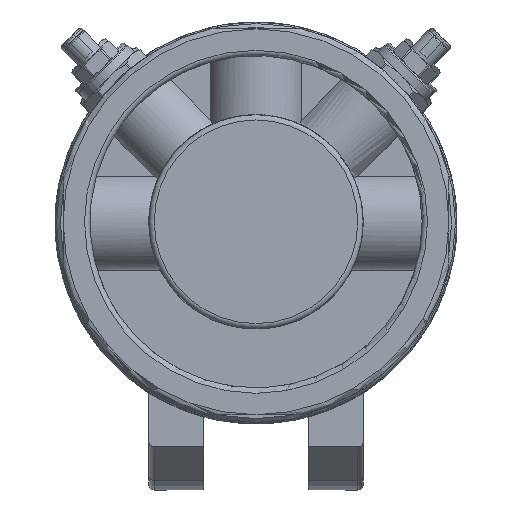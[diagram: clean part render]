
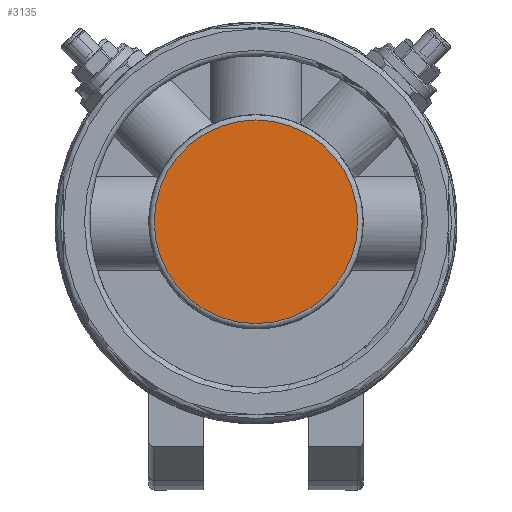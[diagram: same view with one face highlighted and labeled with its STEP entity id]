
A CAD part, top view. The second image highlights one B-rep face of the part: STEP entity #3135.
In plain terms, the highlighted planar face has unit normal (0, 0, 1).
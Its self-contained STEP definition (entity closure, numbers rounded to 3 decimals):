
#2824=CARTESIAN_POINT('',(19.,0.,145.5));
#2825=VERTEX_POINT('',#2824);
#2826=CARTESIAN_POINT('',(0.,0.,145.5));
#2827=DIRECTION('',(0.0,0.0,-1.0));
#2828=DIRECTION('',(-1.0,0.0,0.0));
#2829=AXIS2_PLACEMENT_3D('',#2826,#2827,#2828);
#2830=CIRCLE('',#2829,19.0);
#2831=EDGE_CURVE('',#2825,#2825,#2830,.T.);
#3127=CARTESIAN_POINT('',(0.,0.,145.5));
#3128=DIRECTION('',(0.0,0.0,-1.0));
#3129=DIRECTION('',(-1.0,0.0,0.0));
#3130=AXIS2_PLACEMENT_3D('',#3127,#3128,#3129);
#3131=PLANE('',#3130);
#3132=ORIENTED_EDGE('',*,*,#2831,.F.);
#3133=EDGE_LOOP('',(#3132));
#3134=FACE_OUTER_BOUND('',#3133,.T.);
#3135=ADVANCED_FACE('',(#3134),#3131,.F.);
